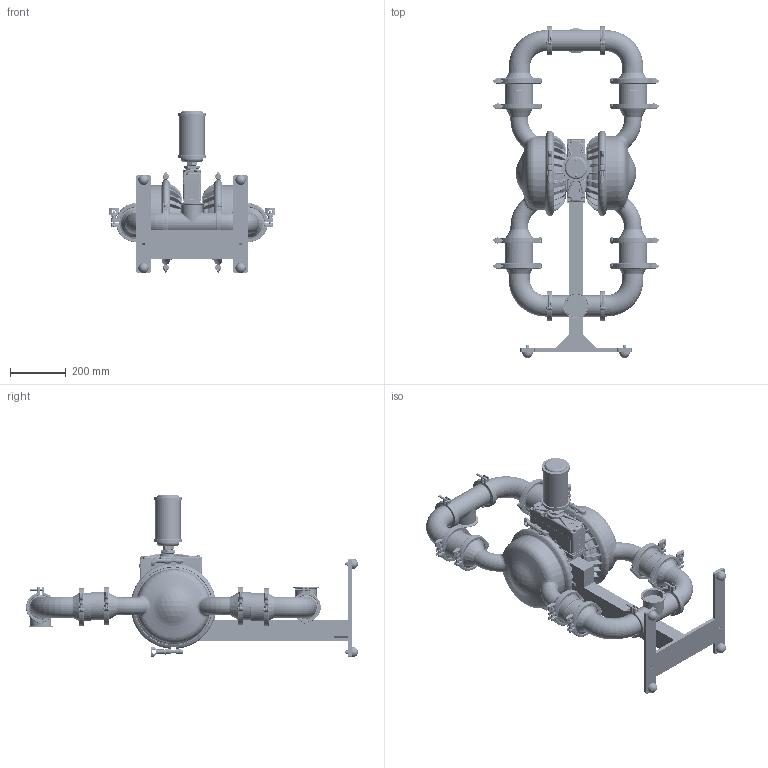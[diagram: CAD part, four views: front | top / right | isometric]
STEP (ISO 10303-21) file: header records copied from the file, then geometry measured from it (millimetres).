
FILE_DESCRIPTION (( 'STEP AP203' ), '1' );
FILE_NAME ('ps15_ss_saniflo_hs_ball_fixed.STEP', '2022-05-20T09:18:39', ( '' ), ( '' ), 'SwSTEP 2.0', 'SolidWorks 2019', '' );
FILE_SCHEMA (( 'CONFIG_CONTROL_DESIGN' ));
Products named in the file (1): ps15_ss_saniflo_hs_ball_fixed
Bounding box: 597.98 x 1193.95 x 585.78 mm (x, y, z)
Volume: 35350649.5 mm3; surface area: 2250526.5 mm2
Topology: 5 solids, 5 shells, 11354 faces, 28081 edges, 16768 vertices
Faces by surface type: plane 3992, bspline 2396, cylinder 2324, torus 1610, cone 614, sphere 418
Entity records: 552809 total; most frequent: CARTESIAN_POINT 302453, ORIENTED_EDGE 55434, DIRECTION 48773, EDGE_CURVE 27717, AXIS2_PLACEMENT_3D 18250, VERTEX_POINT 16696, VECTOR 12273, LINE 12273
